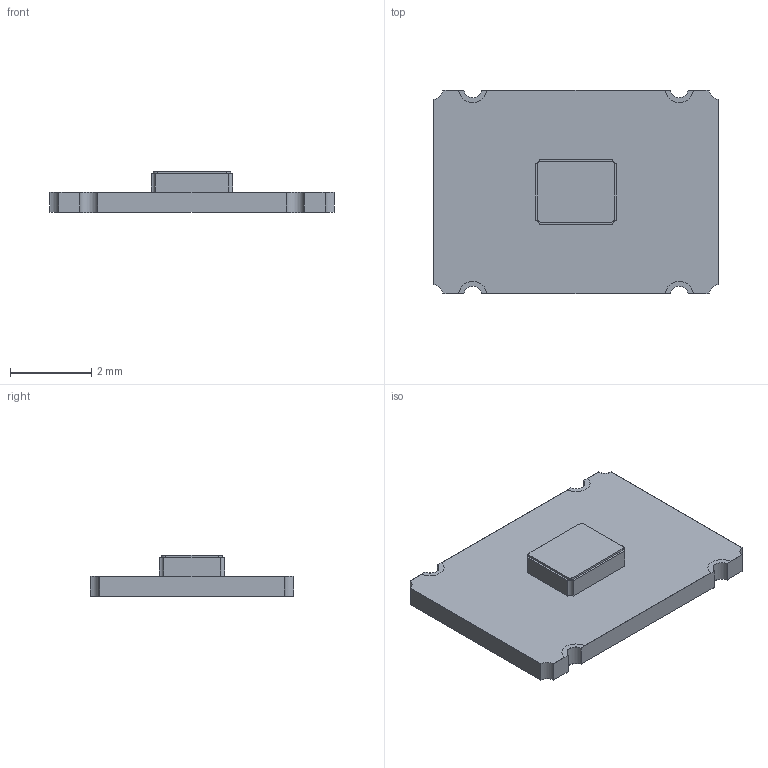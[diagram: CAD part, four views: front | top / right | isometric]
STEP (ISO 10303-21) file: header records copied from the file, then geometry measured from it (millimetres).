
FILE_DESCRIPTION(('FreeCAD Model'),'2;1');
FILE_NAME('Open CASCADE Shape Model','2022-08-09T16:48:02',(''),(''), 'Open CASCADE STEP processor 7.6','FreeCAD','Unknown');
FILE_SCHEMA(('AUTOMOTIVE_DESIGN { 1 0 10303 214 1 1 1 1 }'));
Length unit declared in the file: millimetre
Products named in the file (1): Body
Bounding box: 7 x 5 x 1.01 mm (x, y, z)
Volume: 18.8 mm3; surface area: 85 mm2
Topology: 1 solids, 1 shells, 118 faces, 299 edges, 186 vertices
Faces by surface type: plane 78, cylinder 40
Entity records: 7476 total; most frequent: CARTESIAN_POINT 1346, DIRECTION 1183, LINE 761, VECTOR 761, ORIENTED_EDGE 598, PCURVE 598, DEFINITIONAL_REPRESENTATION 598, EDGE_CURVE 299
